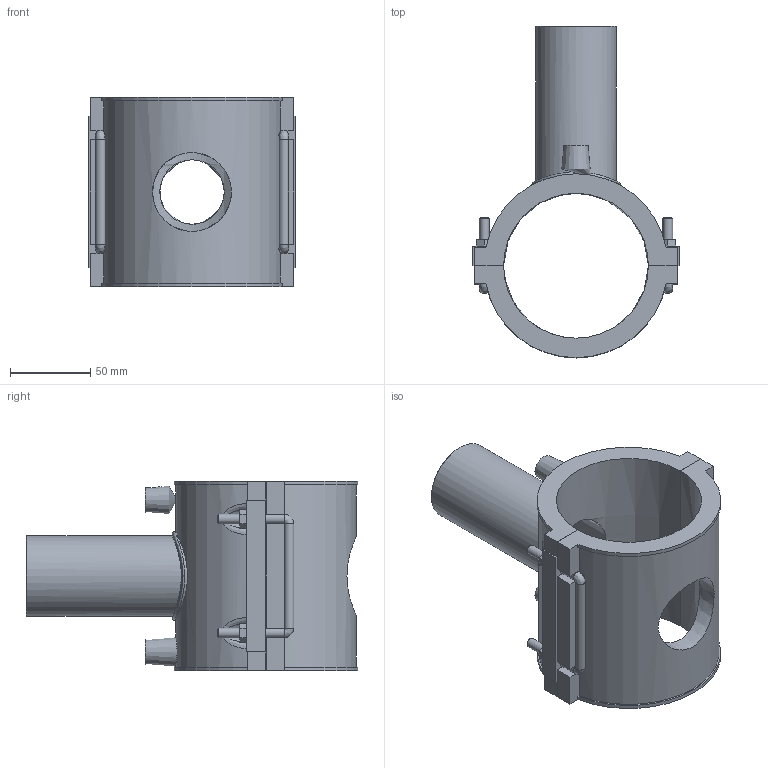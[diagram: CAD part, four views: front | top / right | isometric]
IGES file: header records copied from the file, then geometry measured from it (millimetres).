
Global section: file name: 495804090050.ipt; native system: Autodesk Inventor 2015; preprocessor: unknown; author: KIM; date: 20180426.120831; units: millimetre
Bounding box: 128 x 206.12 x 118 mm (x, y, z)
Volume: 499137.2 mm3; surface area: 127768.8 mm2
Topology: 2 solids, 4 shells, 149 faces, 376 edges, 238 vertices
Faces by surface type: plane 89, cylinder 26, revolution 14, bspline 13, cone 7
Full cylindrical faces by diameter (mm): 4 x2, 6 x8, 50 x1, 55 x1
